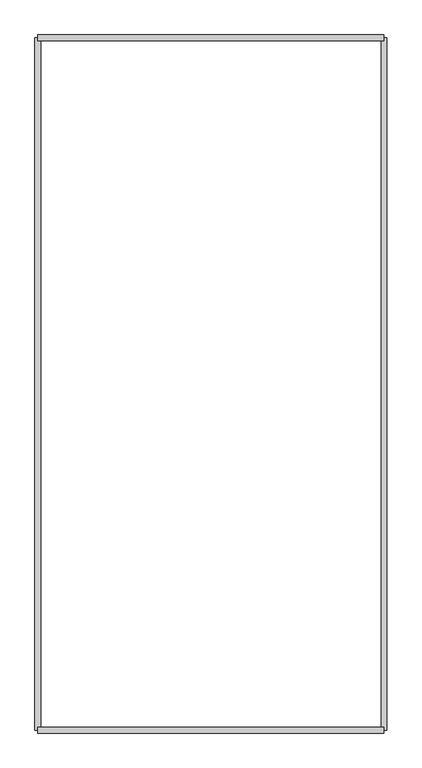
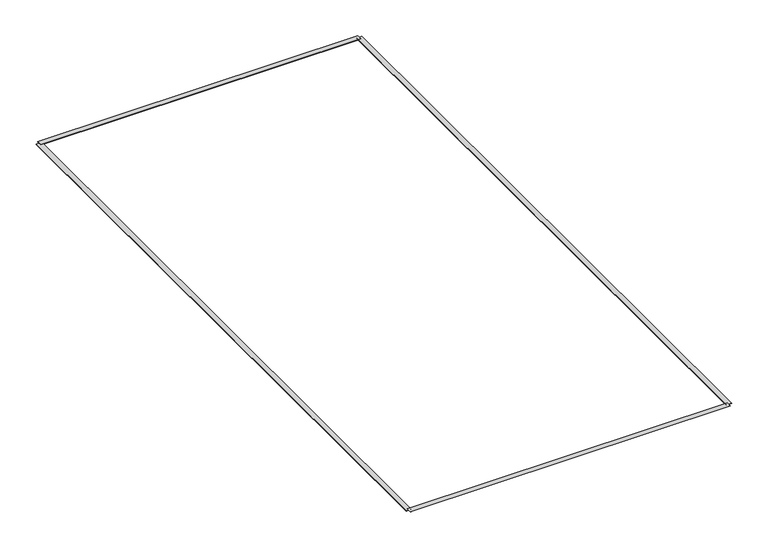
"""IFC4 building model written with IfcOpenShell, lengths in millimetres: proxy geometry, Lorry_Park_Space-Small : Smal 3000x6000."""

from ifc_helpers import new_model, si_unit, origin, origin_with_axes, place, context, project, spatial, polyline, outline, extrude, source, transform, mapped, element, save


def parking_627ed973(model_context):
    return source(origin(), model_context, "Body", "SweptSolid", [
        extrude(outline(polyline([(3000.0, -5975.0), (3000.0, -6025.0), (0.0, -6025.0), (0.0, -5975.0), (3000.0, -5975.0)])), origin_with_axes(), (0.0, 0.0, 1.0), 3.175),
        extrude(outline(polyline([(3000.0, 25.0), (3000.0, -25.0), (0.0, -25.0), (0.0, 25.0), (3000.0, 25.0)])), origin_with_axes(), (0.0, 0.0, 1.0), 3.175),
        extrude(outline(polyline([(2975.0, 0.0), (3025.0, 0.0), (3025.0, -6000.0), (2975.0, -6000.0), (2975.0, 0.0)])), origin_with_axes(), (0.0, 0.0, 1.0), 3.175),
        extrude(outline(polyline([(-25.0, 0.0), (25.0, 0.0), (25.0, -6000.0), (-25.0, -6000.0), (-25.0, 0.0)])), origin_with_axes(), (0.0, 0.0, 1.0), 3.175),
    ])


if __name__ == "__main__":
    model = new_model("IFC4")
    model_context = context("Model", 3, world=origin())
    ifc_project = project(units=[si_unit("LENGTHUNIT", "METRE", prefix="MILLI")], contexts=[model_context])
    site = spatial("IfcSite", under=ifc_project)
    building = spatial("IfcBuilding", under=site)
    placement = place(None, origin())
    parking_shape = parking_627ed973(model_context)
    element("IfcBuildingElementProxy", 1, Name="Lorry_Park_Space-Small : Smal 3000x6000", ObjectType="Lorry_Park_Space-Small : Smal 3000x6000", at=placement, inside=building, context=model_context, shape_type="MappedRepresentation", body=[
        mapped(parking_shape, transform((0.0, 0.0, 0.0), x_axis=(1.0, 0.0, 0.0), y_axis=(0.0, 1.0, 0.0), z_axis=(0.0, 0.0, 1.0))),
    ])
    save(model, "model.ifc")
